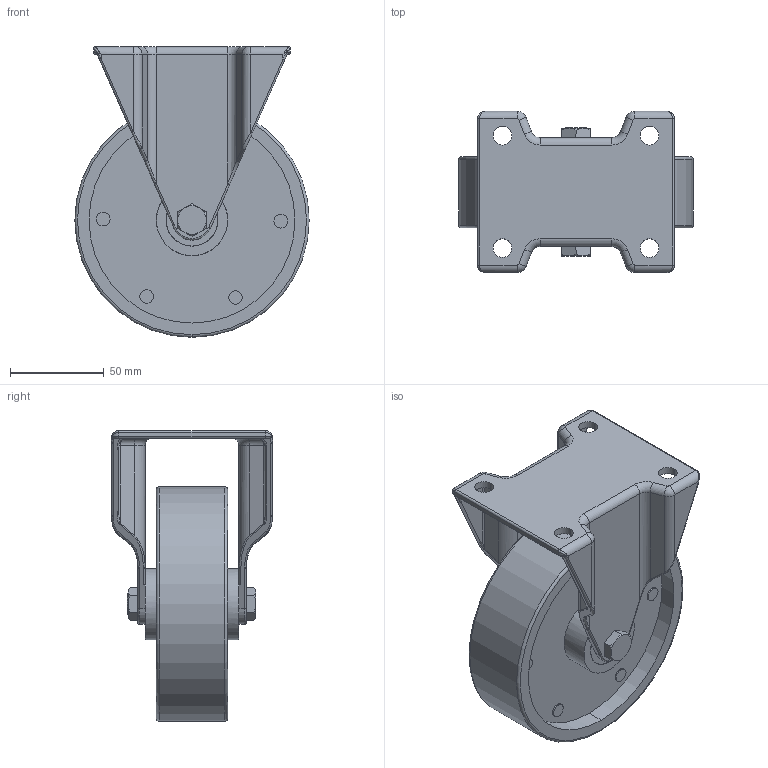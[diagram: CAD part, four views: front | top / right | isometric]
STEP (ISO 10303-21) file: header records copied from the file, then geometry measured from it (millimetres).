
FILE_DESCRIPTION (( 'STEP AP214' ), '1' );
FILE_NAME ('1.5054 Pyörä D125 H155 kuulalaakerilla.STEP', '2025-09-17T07:26:32', ( '' ), ( '' ), 'SwSTEP 2.0', 'SolidWorks 2025', '' );
FILE_SCHEMA (( 'AUTOMOTIVE_DESIGN' ));
Length unit declared in the file: millimetre
Products named in the file (1): 1.5054 Pyörä D125 H155 kuulalaakerilla
Bounding box: 125 x 86 x 155 mm (x, y, z)
Volume: 412698.5 mm3; surface area: 91433.6 mm2
Topology: 1 solids, 1 shells, 262 faces, 647 edges, 386 vertices
Faces by surface type: cylinder 120, plane 65, bspline 39, torus 24, cone 14
Entity records: 8747 total; most frequent: CARTESIAN_POINT 2744, ORIENTED_EDGE 1266, DIRECTION 1204, EDGE_CURVE 633, AXIS2_PLACEMENT_3D 476, VERTEX_POINT 386, EDGE_LOOP 285, FACE_OUTER_BOUND 262
